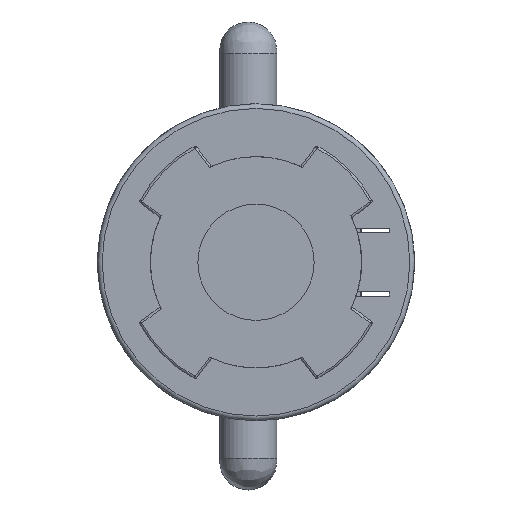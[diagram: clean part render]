
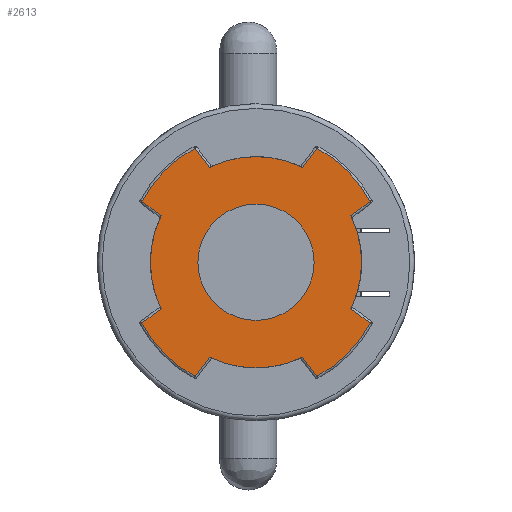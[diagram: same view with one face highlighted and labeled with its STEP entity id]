
A CAD part, left-side view. The second image highlights one B-rep face of the part: STEP entity #2613.
In plain terms, the highlighted planar face has unit normal (-1, 0, 0) as drawn and (0, -1, 0) by its records, which use the part's own axes.
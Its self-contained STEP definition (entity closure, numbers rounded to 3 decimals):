
#43=FACE_BOUND('',#453,.T.);
#218=PLANE('',#2845);
#294=FACE_OUTER_BOUND('',#452,.T.);
#452=EDGE_LOOP('',(#2058,#2059,#2060,#2061,#2062,#2063,#2064,#2065,#2066,
#2067,#2068,#2069,#2070,#2071,#2072,#2073,#2074));
#453=EDGE_LOOP('',(#2075));
#673=LINE('',#4822,#836);
#674=LINE('',#4838,#837);
#675=LINE('',#4841,#838);
#676=LINE('',#4843,#839);
#677=LINE('',#4846,#840);
#678=LINE('',#4848,#841);
#679=LINE('',#4851,#842);
#680=LINE('',#4852,#843);
#836=VECTOR('',#3375,10.);
#837=VECTOR('',#3392,10.);
#838=VECTOR('',#3395,10.);
#839=VECTOR('',#3396,10.);
#840=VECTOR('',#3399,10.);
#841=VECTOR('',#3400,10.);
#842=VECTOR('',#3403,10.);
#843=VECTOR('',#3404,10.);
#912=CIRCLE('',#2823,50.);
#914=CIRCLE('',#2825,50.);
#916=CIRCLE('',#2827,50.);
#918=CIRCLE('',#2829,50.);
#920=CIRCLE('',#2831,50.);
#927=CIRCLE('',#2843,61.203);
#929=CIRCLE('',#2846,61.203);
#930=CIRCLE('',#2847,61.203);
#931=CIRCLE('',#2848,61.203);
#932=CIRCLE('',#2849,27.5);
#1142=VERTEX_POINT('',#4457);
#1151=VERTEX_POINT('',#4530);
#1158=VERTEX_POINT('',#4582);
#1159=VERTEX_POINT('',#4593);
#1166=VERTEX_POINT('',#4645);
#1167=VERTEX_POINT('',#4656);
#1174=VERTEX_POINT('',#4708);
#1175=VERTEX_POINT('',#4719);
#1182=VERTEX_POINT('',#4771);
#1186=VERTEX_POINT('',#4819);
#1188=VERTEX_POINT('',#4833);
#1189=VERTEX_POINT('',#4837);
#1190=VERTEX_POINT('',#4839);
#1191=VERTEX_POINT('',#4842);
#1192=VERTEX_POINT('',#4844);
#1193=VERTEX_POINT('',#4847);
#1194=VERTEX_POINT('',#4849);
#1195=VERTEX_POINT('',#4853);
#1458=EDGE_CURVE('',#1151,#1142,#912,.T.);
#1466=EDGE_CURVE('',#1158,#1159,#914,.T.);
#1474=EDGE_CURVE('',#1166,#1167,#916,.T.);
#1482=EDGE_CURVE('',#1174,#1175,#918,.T.);
#1490=EDGE_CURVE('',#1142,#1182,#920,.T.);
#1498=EDGE_CURVE('',#1151,#1186,#673,.T.);
#1502=EDGE_CURVE('',#1186,#1188,#927,.T.);
#1504=EDGE_CURVE('',#1189,#1182,#674,.T.);
#1505=EDGE_CURVE('',#1190,#1189,#929,.T.);
#1506=EDGE_CURVE('',#1175,#1190,#675,.T.);
#1507=EDGE_CURVE('',#1191,#1174,#676,.T.);
#1508=EDGE_CURVE('',#1192,#1191,#930,.T.);
#1509=EDGE_CURVE('',#1167,#1192,#677,.T.);
#1510=EDGE_CURVE('',#1193,#1166,#678,.T.);
#1511=EDGE_CURVE('',#1194,#1193,#931,.T.);
#1512=EDGE_CURVE('',#1159,#1194,#679,.T.);
#1513=EDGE_CURVE('',#1188,#1158,#680,.T.);
#1514=EDGE_CURVE('',#1195,#1195,#932,.T.);
#2058=ORIENTED_EDGE('',*,*,#1498,.F.);
#2059=ORIENTED_EDGE('',*,*,#1458,.T.);
#2060=ORIENTED_EDGE('',*,*,#1490,.T.);
#2061=ORIENTED_EDGE('',*,*,#1504,.F.);
#2062=ORIENTED_EDGE('',*,*,#1505,.F.);
#2063=ORIENTED_EDGE('',*,*,#1506,.F.);
#2064=ORIENTED_EDGE('',*,*,#1482,.F.);
#2065=ORIENTED_EDGE('',*,*,#1507,.F.);
#2066=ORIENTED_EDGE('',*,*,#1508,.F.);
#2067=ORIENTED_EDGE('',*,*,#1509,.F.);
#2068=ORIENTED_EDGE('',*,*,#1474,.F.);
#2069=ORIENTED_EDGE('',*,*,#1510,.F.);
#2070=ORIENTED_EDGE('',*,*,#1511,.F.);
#2071=ORIENTED_EDGE('',*,*,#1512,.F.);
#2072=ORIENTED_EDGE('',*,*,#1466,.F.);
#2073=ORIENTED_EDGE('',*,*,#1513,.F.);
#2074=ORIENTED_EDGE('',*,*,#1502,.F.);
#2075=ORIENTED_EDGE('',*,*,#1514,.T.);
#2613=ADVANCED_FACE('',(#294,#43),#218,.T.);
#2823=AXIS2_PLACEMENT_3D('',#4531,#3336,#3337);
#2825=AXIS2_PLACEMENT_3D('',#4594,#3342,#3343);
#2827=AXIS2_PLACEMENT_3D('',#4657,#3348,#3349);
#2829=AXIS2_PLACEMENT_3D('',#4720,#3354,#3355);
#2831=AXIS2_PLACEMENT_3D('',#4782,#3360,#3361);
#2843=AXIS2_PLACEMENT_3D('',#4834,#3386,#3387);
#2845=AXIS2_PLACEMENT_3D('',#4836,#3390,#3391);
#2846=AXIS2_PLACEMENT_3D('',#4840,#3393,#3394);
#2847=AXIS2_PLACEMENT_3D('',#4845,#3397,#3398);
#2848=AXIS2_PLACEMENT_3D('',#4850,#3401,#3402);
#2849=AXIS2_PLACEMENT_3D('',#4854,#3405,#3406);
#3336=DIRECTION('center_axis',(0.,-1.,0.));
#3337=DIRECTION('ref_axis',(-1.,0.,0.));
#3342=DIRECTION('center_axis',(0.,1.,0.));
#3343=DIRECTION('ref_axis',(1.,0.,0.));
#3348=DIRECTION('center_axis',(0.,1.,0.));
#3349=DIRECTION('ref_axis',(1.,0.,0.));
#3354=DIRECTION('center_axis',(0.,1.,0.));
#3355=DIRECTION('ref_axis',(1.,0.,0.));
#3360=DIRECTION('center_axis',(0.,-1.,0.));
#3361=DIRECTION('ref_axis',(-1.,0.,0.));
#3375=DIRECTION('',(0.793,0.,-0.609));
#3386=DIRECTION('center_axis',(0.,1.,0.));
#3387=DIRECTION('ref_axis',(0.707,0.,-0.707));
#3390=DIRECTION('center_axis',(0.,-1.,0.));
#3391=DIRECTION('ref_axis',(0.,0.,-1.));
#3392=DIRECTION('',(-0.793,0.,-0.609));
#3393=DIRECTION('center_axis',(0.,1.,0.));
#3394=DIRECTION('ref_axis',(0.707,0.,0.707));
#3395=DIRECTION('',(0.609,0.,0.793));
#3396=DIRECTION('',(0.609,0.,-0.793));
#3397=DIRECTION('center_axis',(0.,1.,0.));
#3398=DIRECTION('ref_axis',(-0.707,0.,0.707));
#3399=DIRECTION('',(-0.793,0.,0.609));
#3400=DIRECTION('',(0.793,0.,0.609));
#3401=DIRECTION('center_axis',(0.,1.,0.));
#3402=DIRECTION('ref_axis',(-0.707,0.,-0.707));
#3403=DIRECTION('',(-0.609,0.,-0.793));
#3404=DIRECTION('',(-0.609,0.,0.793));
#3405=DIRECTION('center_axis',(0.,1.,0.));
#3406=DIRECTION('ref_axis',(-1.,0.,0.));
#4457=CARTESIAN_POINT('',(50.,0.,0.));
#4530=CARTESIAN_POINT('',(44.937,0.,-21.924));
#4531=CARTESIAN_POINT('Origin',(0.,0.,0.));
#4582=CARTESIAN_POINT('',(21.924,0.,-44.937));
#4593=CARTESIAN_POINT('',(-21.924,0.,-44.937));
#4594=CARTESIAN_POINT('Origin',(0.,0.,0.));
#4645=CARTESIAN_POINT('',(-44.937,0.,-21.924));
#4656=CARTESIAN_POINT('',(-44.937,0.,21.924));
#4657=CARTESIAN_POINT('Origin',(0.,0.,0.));
#4708=CARTESIAN_POINT('',(-21.924,0.,44.937));
#4719=CARTESIAN_POINT('',(21.924,0.,44.937));
#4720=CARTESIAN_POINT('Origin',(0.,0.,0.));
#4771=CARTESIAN_POINT('',(44.937,0.,21.924));
#4782=CARTESIAN_POINT('Origin',(0.,0.,0.));
#4819=CARTESIAN_POINT('',(53.973,0.,-28.857));
#4822=CARTESIAN_POINT('',(30.876,0.,-11.134));
#4833=CARTESIAN_POINT('',(28.857,0.,-53.973));
#4834=CARTESIAN_POINT('Origin',(0.,0.,0.));
#4836=CARTESIAN_POINT('Origin',(0.,0.,0.));
#4837=CARTESIAN_POINT('',(53.973,0.,28.857));
#4838=CARTESIAN_POINT('',(25.416,0.,6.945));
#4839=CARTESIAN_POINT('',(28.857,0.,53.973));
#4840=CARTESIAN_POINT('Origin',(0.,0.,0.));
#4841=CARTESIAN_POINT('',(11.134,0.,30.876));
#4842=CARTESIAN_POINT('',(-28.857,0.,53.973));
#4843=CARTESIAN_POINT('',(-6.945,0.,25.416));
#4844=CARTESIAN_POINT('',(-53.973,0.,28.857));
#4845=CARTESIAN_POINT('Origin',(0.,0.,0.));
#4846=CARTESIAN_POINT('',(-30.876,0.,11.134));
#4847=CARTESIAN_POINT('',(-53.973,0.,-28.857));
#4848=CARTESIAN_POINT('',(-25.416,0.,-6.945));
#4849=CARTESIAN_POINT('',(-28.857,0.,-53.973));
#4850=CARTESIAN_POINT('Origin',(0.,0.,0.));
#4851=CARTESIAN_POINT('',(-11.134,0.,-30.876));
#4852=CARTESIAN_POINT('',(6.945,0.,-25.416));
#4853=CARTESIAN_POINT('',(27.5,0.,0.));
#4854=CARTESIAN_POINT('Origin',(0.,0.,0.));
